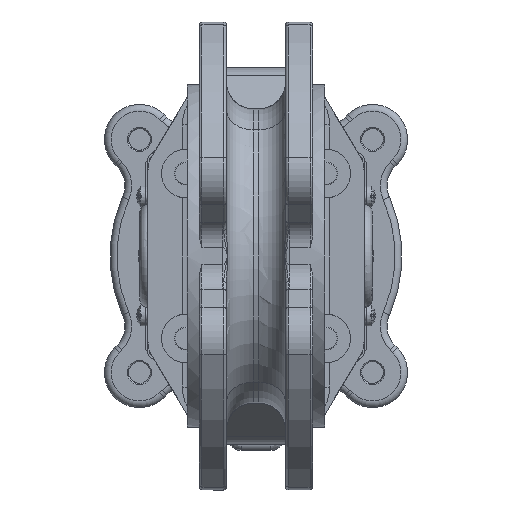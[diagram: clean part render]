
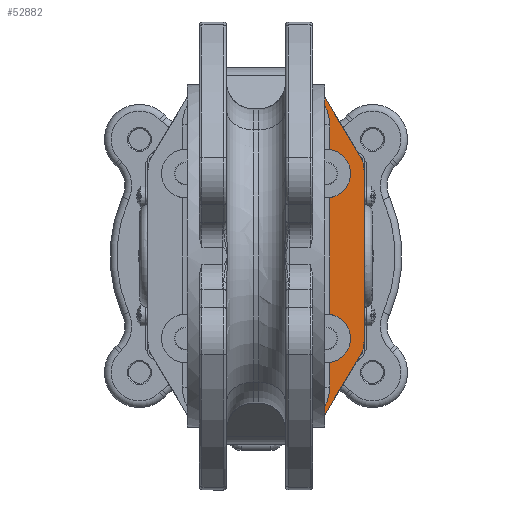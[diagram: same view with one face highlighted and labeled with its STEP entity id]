
A CAD part, front view. The second image highlights one B-rep face of the part: STEP entity #52882.
In plain terms, the highlighted planar face has unit normal (0, -1, 0).
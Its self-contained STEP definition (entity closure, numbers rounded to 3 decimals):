
#3855=PLANE('',#58244);
#4632=LINE('',#81928,#8116);
#6028=LINE('',#91297,#9512);
#7186=LINE('',#100845,#10670);
#7227=LINE('',#101013,#10711);
#7228=LINE('',#101017,#10712);
#7229=LINE('',#101021,#10713);
#7230=LINE('',#101025,#10714);
#7231=LINE('',#101028,#10715);
#8116=VECTOR('',#63433,10.);
#9512=VECTOR('',#69191,10.);
#10670=VECTOR('',#71985,10.);
#10711=VECTOR('',#72198,10.);
#10712=VECTOR('',#72201,10.);
#10713=VECTOR('',#72204,10.);
#10714=VECTOR('',#72207,10.);
#10715=VECTOR('',#72210,10.);
#14384=FACE_OUTER_BOUND('',#17746,.T.);
#17746=EDGE_LOOP('',(#48228,#48229,#48230,#48231,#48232,#48233,#48234,#48235,
#48236,#48237,#48238,#48239,#48240,#48241,#48242,#48243));
#20566=CIRCLE('',#58156,10.);
#20567=CIRCLE('',#58158,10.);
#20599=CIRCLE('',#58243,10.);
#20600=CIRCLE('',#58245,10.);
#20601=CIRCLE('',#58246,16.);
#20602=CIRCLE('',#58247,9.);
#20603=CIRCLE('',#58248,9.);
#20604=CIRCLE('',#58249,16.);
#22372=VERTEX_POINT('',#81925);
#22373=VERTEX_POINT('',#81927);
#24144=VERTEX_POINT('',#91294);
#24145=VERTEX_POINT('',#91296);
#25521=VERTEX_POINT('',#100837);
#25523=VERTEX_POINT('',#100843);
#25550=VERTEX_POINT('',#101006);
#25551=VERTEX_POINT('',#101010);
#25552=VERTEX_POINT('',#101012);
#25553=VERTEX_POINT('',#101014);
#25554=VERTEX_POINT('',#101016);
#25555=VERTEX_POINT('',#101018);
#25556=VERTEX_POINT('',#101020);
#25557=VERTEX_POINT('',#101022);
#25558=VERTEX_POINT('',#101024);
#25559=VERTEX_POINT('',#101026);
#28143=EDGE_CURVE('',#22373,#22372,#4632,.T.);
#31014=EDGE_CURVE('',#24144,#24145,#6028,.T.);
#33105=EDGE_CURVE('',#22373,#24144,#20566,.T.);
#33107=EDGE_CURVE('',#25521,#22372,#20567,.T.);
#33110=EDGE_CURVE('',#25523,#25521,#7186,.T.);
#33185=EDGE_CURVE('',#24145,#25550,#20599,.T.);
#33187=EDGE_CURVE('',#25551,#25523,#20600,.T.);
#33188=EDGE_CURVE('',#25551,#25552,#7227,.T.);
#33189=EDGE_CURVE('',#25553,#25552,#20601,.T.);
#33190=EDGE_CURVE('',#25554,#25553,#7228,.T.);
#33191=EDGE_CURVE('',#25554,#25555,#20602,.T.);
#33192=EDGE_CURVE('',#25556,#25555,#7229,.T.);
#33193=EDGE_CURVE('',#25556,#25557,#20603,.T.);
#33194=EDGE_CURVE('',#25558,#25557,#7230,.T.);
#33195=EDGE_CURVE('',#25559,#25558,#20604,.T.);
#33196=EDGE_CURVE('',#25559,#25550,#7231,.T.);
#48228=ORIENTED_EDGE('',*,*,#33185,.F.);
#48229=ORIENTED_EDGE('',*,*,#31014,.F.);
#48230=ORIENTED_EDGE('',*,*,#33105,.F.);
#48231=ORIENTED_EDGE('',*,*,#28143,.T.);
#48232=ORIENTED_EDGE('',*,*,#33107,.F.);
#48233=ORIENTED_EDGE('',*,*,#33110,.F.);
#48234=ORIENTED_EDGE('',*,*,#33187,.F.);
#48235=ORIENTED_EDGE('',*,*,#33188,.T.);
#48236=ORIENTED_EDGE('',*,*,#33189,.F.);
#48237=ORIENTED_EDGE('',*,*,#33190,.F.);
#48238=ORIENTED_EDGE('',*,*,#33191,.T.);
#48239=ORIENTED_EDGE('',*,*,#33192,.F.);
#48240=ORIENTED_EDGE('',*,*,#33193,.T.);
#48241=ORIENTED_EDGE('',*,*,#33194,.F.);
#48242=ORIENTED_EDGE('',*,*,#33195,.F.);
#48243=ORIENTED_EDGE('',*,*,#33196,.T.);
#52882=ADVANCED_FACE('',(#14384),#3855,.T.);
#58156=AXIS2_PLACEMENT_3D('',#100835,#71974,#71975);
#58158=AXIS2_PLACEMENT_3D('',#100839,#71979,#71980);
#58243=AXIS2_PLACEMENT_3D('',#101007,#72191,#72192);
#58244=AXIS2_PLACEMENT_3D('',#101009,#72194,#72195);
#58245=AXIS2_PLACEMENT_3D('',#101011,#72196,#72197);
#58246=AXIS2_PLACEMENT_3D('',#101015,#72199,#72200);
#58247=AXIS2_PLACEMENT_3D('',#101019,#72202,#72203);
#58248=AXIS2_PLACEMENT_3D('',#101023,#72205,#72206);
#58249=AXIS2_PLACEMENT_3D('',#101027,#72208,#72209);
#63433=DIRECTION('',(0.,0.,1.));
#69191=DIRECTION('',(-0.515,0.,-0.857));
#71974=DIRECTION('center_axis',(0.,1.,0.));
#71975=DIRECTION('ref_axis',(0.964,0.,-0.267));
#71979=DIRECTION('center_axis',(0.,1.,0.));
#71980=DIRECTION('ref_axis',(0.964,0.,0.267));
#71985=DIRECTION('',(0.515,0.,-0.857));
#72191=DIRECTION('center_axis',(0.,1.,0.));
#72192=DIRECTION('ref_axis',(0.492,0.,-0.87));
#72194=DIRECTION('center_axis',(0.,-1.,0.));
#72195=DIRECTION('ref_axis',(-1.,0.,0.));
#72196=DIRECTION('center_axis',(0.,1.,0.));
#72197=DIRECTION('ref_axis',(0.492,0.,0.87));
#72198=DIRECTION('',(-1.,0.,0.));
#72199=DIRECTION('center_axis',(0.,-1.,0.));
#72200=DIRECTION('ref_axis',(0.707,0.,0.707));
#72201=DIRECTION('',(0.,0.,1.));
#72202=DIRECTION('center_axis',(0.,1.,0.));
#72203=DIRECTION('ref_axis',(0.,0.,-1.));
#72204=DIRECTION('',(0.,0.,1.));
#72205=DIRECTION('center_axis',(0.,1.,0.));
#72206=DIRECTION('ref_axis',(0.,0.,-1.));
#72207=DIRECTION('',(0.,0.,1.));
#72208=DIRECTION('center_axis',(0.,-1.,0.));
#72209=DIRECTION('ref_axis',(0.707,0.,-0.707));
#72210=DIRECTION('',(1.,0.,0.));
#81925=CARTESIAN_POINT('',(40.,116.,31.727));
#81927=CARTESIAN_POINT('',(40.,116.,-31.727));
#81928=CARTESIAN_POINT('',(40.,116.,64.5));
#91294=CARTESIAN_POINT('',(38.572,116.,-36.877));
#91296=CARTESIAN_POINT('',(24.888,116.,-59.65));
#91297=CARTESIAN_POINT('',(37.804,116.,-38.155));
#100835=CARTESIAN_POINT('Origin',(30.,116.,-31.727));
#100837=CARTESIAN_POINT('',(38.572,116.,36.877));
#100839=CARTESIAN_POINT('Origin',(30.,116.,31.727));
#100843=CARTESIAN_POINT('',(24.888,116.,59.65));
#100845=CARTESIAN_POINT('',(37.804,116.,38.155));
#101006=CARTESIAN_POINT('',(16.316,116.,-64.5));
#101007=CARTESIAN_POINT('Origin',(16.316,116.,-54.5));
#101009=CARTESIAN_POINT('Origin',(0.,116.,0.));
#101010=CARTESIAN_POINT('',(16.316,116.,64.5));
#101011=CARTESIAN_POINT('Origin',(16.316,116.,54.5));
#101012=CARTESIAN_POINT('',(11.25,116.,64.5));
#101013=CARTESIAN_POINT('',(-40.,116.,64.5));
#101014=CARTESIAN_POINT('',(27.25,116.,48.5));
#101015=CARTESIAN_POINT('Origin',(11.25,116.,48.5));
#101016=CARTESIAN_POINT('',(27.25,116.,39.413));
#101017=CARTESIAN_POINT('',(27.25,116.,0.));
#101018=CARTESIAN_POINT('',(27.25,116.,21.587));
#101019=CARTESIAN_POINT('Origin',(26.,116.,30.5));
#101020=CARTESIAN_POINT('',(27.25,116.,-21.587));
#101021=CARTESIAN_POINT('',(27.25,116.,0.));
#101022=CARTESIAN_POINT('',(27.25,116.,-39.413));
#101023=CARTESIAN_POINT('Origin',(26.,116.,-30.5));
#101024=CARTESIAN_POINT('',(27.25,116.,-48.5));
#101025=CARTESIAN_POINT('',(27.25,116.,0.));
#101026=CARTESIAN_POINT('',(11.25,116.,-64.5));
#101027=CARTESIAN_POINT('Origin',(11.25,116.,-48.5));
#101028=CARTESIAN_POINT('',(40.,116.,-64.5));
